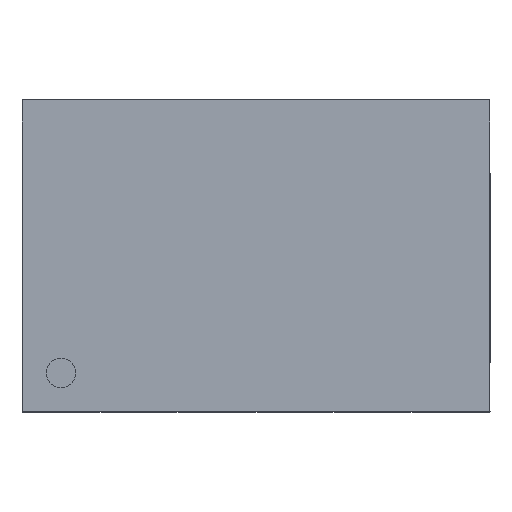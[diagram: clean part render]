
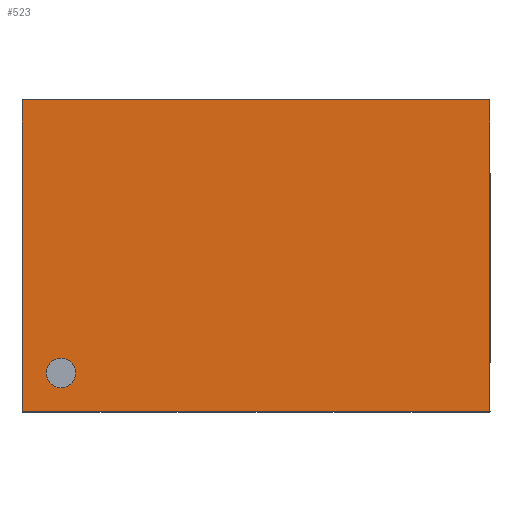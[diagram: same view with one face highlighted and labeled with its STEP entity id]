
A CAD part, top view. The second image highlights one B-rep face of the part: STEP entity #523.
In plain terms, the highlighted planar face has unit normal (0, 0, 1).
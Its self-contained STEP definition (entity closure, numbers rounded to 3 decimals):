
#29 = DIRECTION ( 'NONE',  ( 0., 0., 1. ) ) ;
#330 = VECTOR ( 'NONE', #5109, 1000. ) ;
#342 = ORIENTED_EDGE ( 'NONE', *, *, #3334, .T. ) ;
#475 = CIRCLE ( 'NONE', #3851, 0.075 ) ;
#523 = ADVANCED_FACE ( 'NONE', ( #4529, #3106 ), #2537, .T. ) ;
#538 = DIRECTION ( 'NONE',  ( 1., 0., 0. ) ) ;
#598 = ORIENTED_EDGE ( 'NONE', *, *, #2619, .T. ) ;
#642 = DIRECTION ( 'NONE',  ( 0., 0., -1. ) ) ;
#717 = VECTOR ( 'NONE', #3265, 1000. ) ;
#803 = CARTESIAN_POINT ( 'NONE',  ( 1.2, 0.8, 0.4 ) ) ;
#1446 = CARTESIAN_POINT ( 'NONE',  ( -1.2, -0.8, 0.4 ) ) ;
#1616 = CIRCLE ( 'NONE', #3564, 0.075 ) ;
#1620 = DIRECTION ( 'NONE',  ( 1., 0., 0. ) ) ;
#1669 = EDGE_CURVE ( 'NONE', #2074, #3602, #4777, .T. ) ;
#1882 = ORIENTED_EDGE ( 'NONE', *, *, #2833, .T. ) ;
#1957 = AXIS2_PLACEMENT_3D ( 'NONE', #5014, #29, #538 ) ;
#1968 = VERTEX_POINT ( 'NONE', #5610 ) ;
#2074 = VERTEX_POINT ( 'NONE', #4741 ) ;
#2262 = CARTESIAN_POINT ( 'NONE',  ( -1.2, 0.8, 0.4 ) ) ;
#2276 = CARTESIAN_POINT ( 'NONE',  ( -1.2, -0.8, 0.4 ) ) ;
#2340 = EDGE_CURVE ( 'NONE', #3162, #1968, #475, .T. ) ;
#2361 = CARTESIAN_POINT ( 'NONE',  ( -1.2, 0.8, 0.4 ) ) ;
#2419 = DIRECTION ( 'NONE',  ( 0., 0., -1. ) ) ;
#2537 = PLANE ( 'NONE',  #1957 ) ;
#2619 = EDGE_CURVE ( 'NONE', #3602, #3931, #2725, .T. ) ;
#2725 = LINE ( 'NONE', #2276, #5392 ) ;
#2819 = CARTESIAN_POINT ( 'NONE',  ( -1.075, -0.6, 0.4 ) ) ;
#2833 = EDGE_CURVE ( 'NONE', #5784, #2074, #5689, .T. ) ;
#2861 = DIRECTION ( 'NONE',  ( 0., -1., 0. ) ) ;
#2949 = CARTESIAN_POINT ( 'NONE',  ( -1., -0.6, 0.4 ) ) ;
#3106 = FACE_BOUND ( 'NONE', #4003, .T. ) ;
#3162 = VERTEX_POINT ( 'NONE', #2819 ) ;
#3265 = DIRECTION ( 'NONE',  ( -1., 0., 0. ) ) ;
#3334 = EDGE_CURVE ( 'NONE', #1968, #3162, #1616, .T. ) ;
#3564 = AXIS2_PLACEMENT_3D ( 'NONE', #4890, #2419, #5385 ) ;
#3602 = VERTEX_POINT ( 'NONE', #1446 ) ;
#3851 = AXIS2_PLACEMENT_3D ( 'NONE', #2949, #642, #1620 ) ;
#3931 = VERTEX_POINT ( 'NONE', #4173 ) ;
#4003 = EDGE_LOOP ( 'NONE', ( #342, #4497 ) ) ;
#4049 = LINE ( 'NONE', #4050, #330 ) ;
#4050 = CARTESIAN_POINT ( 'NONE',  ( 1.2, 0.8, 0.4 ) ) ;
#4173 = CARTESIAN_POINT ( 'NONE',  ( 1.2, -0.8, 0.4 ) ) ;
#4322 = EDGE_CURVE ( 'NONE', #3931, #5784, #4049, .T. ) ;
#4497 = ORIENTED_EDGE ( 'NONE', *, *, #2340, .T. ) ;
#4529 = FACE_OUTER_BOUND ( 'NONE', #4705, .T. ) ;
#4705 = EDGE_LOOP ( 'NONE', ( #4902, #598, #5240, #1882 ) ) ;
#4741 = CARTESIAN_POINT ( 'NONE',  ( -1.2, 0.8, 0.4 ) ) ;
#4777 = LINE ( 'NONE', #2361, #5778 ) ;
#4890 = CARTESIAN_POINT ( 'NONE',  ( -1., -0.6, 0.4 ) ) ;
#4902 = ORIENTED_EDGE ( 'NONE', *, *, #1669, .T. ) ;
#5014 = CARTESIAN_POINT ( 'NONE',  ( 0., 0., 0.4 ) ) ;
#5109 = DIRECTION ( 'NONE',  ( 0., 1., 0. ) ) ;
#5240 = ORIENTED_EDGE ( 'NONE', *, *, #4322, .T. ) ;
#5385 = DIRECTION ( 'NONE',  ( 1., 0., 0. ) ) ;
#5392 = VECTOR ( 'NONE', #6252, 1000. ) ;
#5610 = CARTESIAN_POINT ( 'NONE',  ( -0.925, -0.6, 0.4 ) ) ;
#5689 = LINE ( 'NONE', #2262, #717 ) ;
#5778 = VECTOR ( 'NONE', #2861, 1000. ) ;
#5784 = VERTEX_POINT ( 'NONE', #803 ) ;
#6252 = DIRECTION ( 'NONE',  ( 1., 0., 0. ) ) ;
